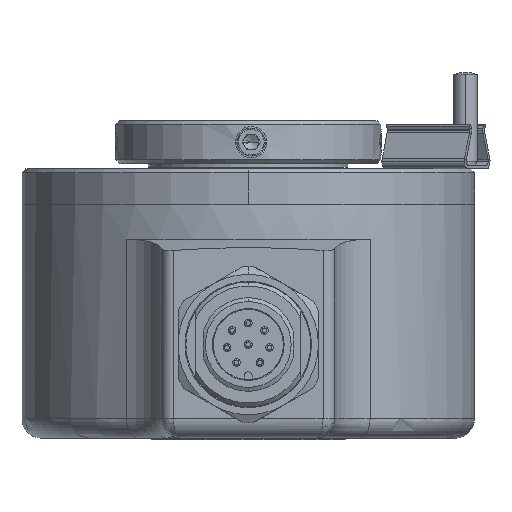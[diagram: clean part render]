
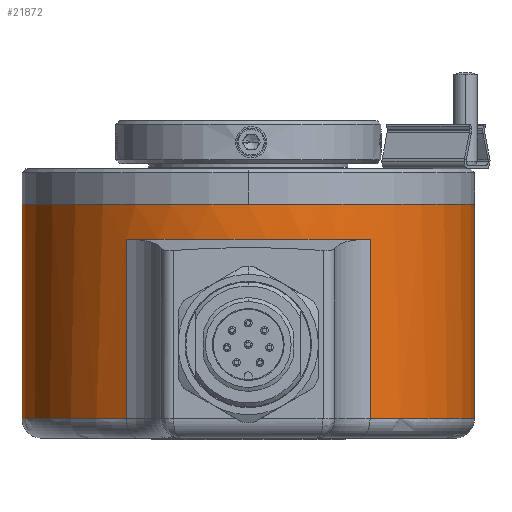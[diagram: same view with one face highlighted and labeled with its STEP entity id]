
A CAD part, front view. The second image highlights one B-rep face of the part: STEP entity #21872.
In plain terms, the highlighted cylindrical face has radius 29 mm (diameter 58 mm), a partial arc.
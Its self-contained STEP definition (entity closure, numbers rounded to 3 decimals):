
#1213 = ORIENTED_EDGE ( 'NONE', *, *, #25482, .T. ) ;
#1543 = ORIENTED_EDGE ( 'NONE', *, *, #25518, .T. ) ;
#1545 = ORIENTED_EDGE ( 'NONE', *, *, #25523, .T. ) ;
#1550 = ORIENTED_EDGE ( 'NONE', *, *, #12295, .T. ) ;
#1560 = ORIENTED_EDGE ( 'NONE', *, *, #25808, .T. ) ;
#8826 = CARTESIAN_POINT ( 'NONE',  ( 31.926, -23.855, -37.056 ) ) ;
#11675 = VERTEX_POINT ( 'NONE', #31243 ) ;
#11677 = VERTEX_POINT ( 'NONE', #31235 ) ;
#11694 = EDGE_CURVE ( 'NONE', #11677, #11696, #31262, .T. ) ;
#11696 = VERTEX_POINT ( 'NONE', #31257 ) ;
#11810 = VERTEX_POINT ( 'NONE', #31355 ) ;
#11930 = EDGE_CURVE ( 'NONE', #11677, #11810, #31391, .T. ) ;
#11986 = VERTEX_POINT ( 'NONE', #31515 ) ;
#12295 = EDGE_CURVE ( 'NONE', #11675, #11986, #31786, .T. ) ;
#16203 = VECTOR ( 'NONE', #16534, 1000. ) ;
#16376 = DIRECTION ( 'NONE',  ( 0., 0., 1. ) ) ;
#16377 = VECTOR ( 'NONE', #16376, 1000. ) ;
#16378 = CARTESIAN_POINT ( 'NONE',  ( 0.696, -23.855, -14.056 ) ) ;
#16379 = LINE ( 'NONE', #16378, #16377 ) ;
#16412 = DIRECTION ( 'NONE',  ( 0., 0., -1. ) ) ;
#16413 = CARTESIAN_POINT ( 'NONE',  ( 16.311, 0.581, -9.556 ) ) ;
#16414 = AXIS2_PLACEMENT_3D ( 'NONE', #16413, #16412, #16464 ) ;
#16415 = CIRCLE ( 'NONE', #16414, 29. ) ;
#16424 = CARTESIAN_POINT ( 'NONE',  ( 0.696, -23.855, -14.056 ) ) ;
#16464 = DIRECTION ( 'NONE',  ( 1., 0., 0. ) ) ;
#16469 = CARTESIAN_POINT ( 'NONE',  ( 31.926, -23.855, -14.056 ) ) ;
#16470 = LINE ( 'NONE', #16469, #16203 ) ;
#16473 = DIRECTION ( 'NONE',  ( 1., 0., 0. ) ) ;
#16474 = DIRECTION ( 'NONE',  ( 0., 0., 1. ) ) ;
#16476 = CARTESIAN_POINT ( 'NONE',  ( 16.311, 0.581, -14.056 ) ) ;
#16477 = AXIS2_PLACEMENT_3D ( 'NONE', #16476, #16474, #16473 ) ;
#16478 = CIRCLE ( 'NONE', #16477, 29. ) ;
#16533 = CARTESIAN_POINT ( 'NONE',  ( 31.926, -23.855, -14.056 ) ) ;
#16534 = DIRECTION ( 'NONE',  ( 0., 0., -1. ) ) ;
#17160 = DIRECTION ( 'NONE',  ( 1., 0., 0. ) ) ;
#17161 = DIRECTION ( 'NONE',  ( 0., 0., 1. ) ) ;
#17162 = CARTESIAN_POINT ( 'NONE',  ( 16.311, 0.581, -37.056 ) ) ;
#17163 = AXIS2_PLACEMENT_3D ( 'NONE', #17162, #17161, #17160 ) ;
#17164 = CIRCLE ( 'NONE', #17163, 29. ) ;
#21870 = ORIENTED_EDGE ( 'NONE', *, *, #11694, .T. ) ;
#21871 = ORIENTED_EDGE ( 'NONE', *, *, #25469, .T. ) ;
#21872 = ADVANCED_FACE ( 'NONE', ( #33456 ), #33453, .T. ) ;
#21873 = ORIENTED_EDGE ( 'NONE', *, *, #11930, .F. ) ;
#21874 = EDGE_LOOP ( 'NONE', ( #21873, #21870, #21871, #1543, #1545, #1560, #1550, #1213 ) ) ;
#25469 = EDGE_CURVE ( 'NONE', #11696, #25475, #16379, .T. ) ;
#25475 = VERTEX_POINT ( 'NONE', #16424 ) ;
#25482 = EDGE_CURVE ( 'NONE', #11986, #11810, #16415, .T. ) ;
#25518 = EDGE_CURVE ( 'NONE', #25475, #25524, #16478, .T. ) ;
#25523 = EDGE_CURVE ( 'NONE', #25524, #27624, #16470, .T. ) ;
#25524 = VERTEX_POINT ( 'NONE', #16533 ) ;
#25808 = EDGE_CURVE ( 'NONE', #27624, #11675, #17164, .T. ) ;
#27624 = VERTEX_POINT ( 'NONE', #8826 ) ;
#31235 = CARTESIAN_POINT ( 'NONE',  ( -12.689, 0.581, -37.056 ) ) ;
#31243 = CARTESIAN_POINT ( 'NONE',  ( 45.311, 0.581, -37.056 ) ) ;
#31257 = CARTESIAN_POINT ( 'NONE',  ( 0.696, -23.855, -37.056 ) ) ;
#31258 = DIRECTION ( 'NONE',  ( 1., 0., 0. ) ) ;
#31259 = DIRECTION ( 'NONE',  ( 0., 0., 1. ) ) ;
#31260 = CARTESIAN_POINT ( 'NONE',  ( 16.311, 0.581, -37.056 ) ) ;
#31261 = AXIS2_PLACEMENT_3D ( 'NONE', #31260, #31259, #31258 ) ;
#31262 = CIRCLE ( 'NONE', #31261, 29. ) ;
#31355 = CARTESIAN_POINT ( 'NONE',  ( -12.689, 0.581, -9.556 ) ) ;
#31388 = DIRECTION ( 'NONE',  ( 0., 0., 1. ) ) ;
#31389 = VECTOR ( 'NONE', #31388, 1000. ) ;
#31390 = CARTESIAN_POINT ( 'NONE',  ( -12.689, 0.581, -14.056 ) ) ;
#31391 = LINE ( 'NONE', #31390, #31389 ) ;
#31515 = CARTESIAN_POINT ( 'NONE',  ( 45.311, 0.581, -9.556 ) ) ;
#31783 = DIRECTION ( 'NONE',  ( 0., 0., 1. ) ) ;
#31784 = VECTOR ( 'NONE', #31783, 1000. ) ;
#31785 = CARTESIAN_POINT ( 'NONE',  ( 45.311, 0.581, -14.056 ) ) ;
#31786 = LINE ( 'NONE', #31785, #31784 ) ;
#33447 = DIRECTION ( 'NONE',  ( 1., 0., 0. ) ) ;
#33448 = DIRECTION ( 'NONE',  ( 0., 0., 1. ) ) ;
#33449 = AXIS2_PLACEMENT_3D ( 'NONE', #33452, #33448, #33447 ) ;
#33452 = CARTESIAN_POINT ( 'NONE',  ( 16.311, 0.581, -14.056 ) ) ;
#33453 = CYLINDRICAL_SURFACE ( 'NONE', #33449, 29. ) ;
#33456 = FACE_OUTER_BOUND ( 'NONE', #21874, .T. ) ;
